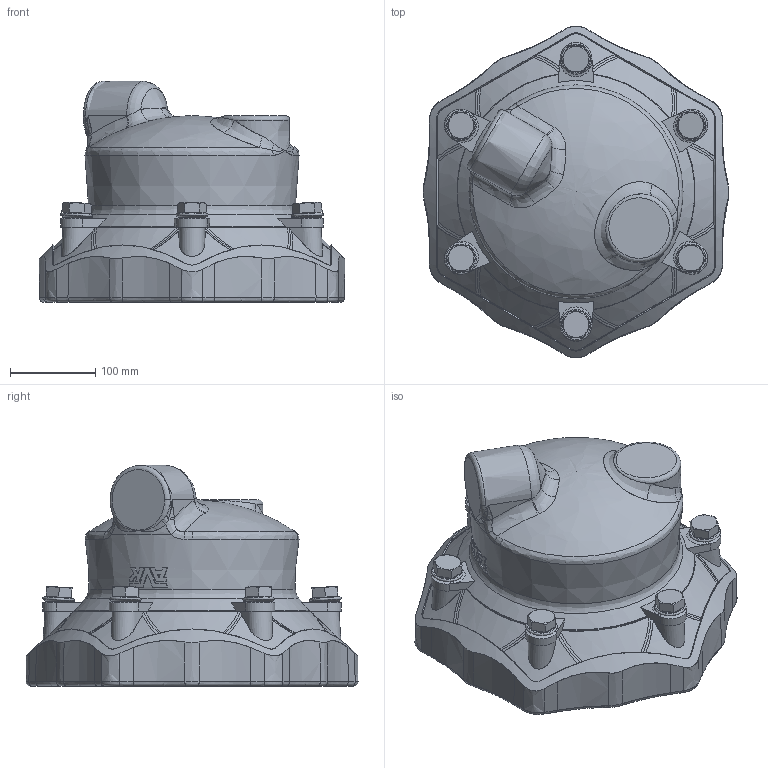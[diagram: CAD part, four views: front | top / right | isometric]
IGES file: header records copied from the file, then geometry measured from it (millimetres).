
Start section: SolidWorks IGES file using analytic representation for surfaces
Global section: file name: \\avksan2\techshare\PBM outline export from Enovia\O_634_00_DN200_193-227mm_AA0_igs.igs; native system: SolidWorks 2012; preprocessor: SolidWorks 2012; author: pbm; date: 160510.124322; units: millimetre
Bounding box: 358.6 x 389.17 x 259.5 mm (x, y, z)
Surface area: 519947.1 mm2 (no closed solid volume)
Topology: 0 solids, 0 shells, 607 faces, 4109 edges, 4077 vertices
Faces by surface type: bspline 372, revolution 235
